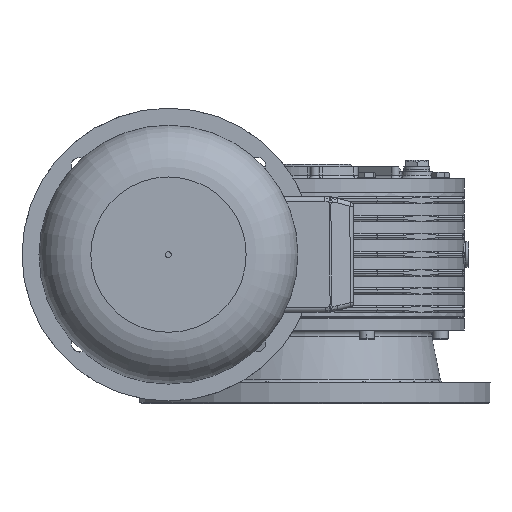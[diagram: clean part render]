
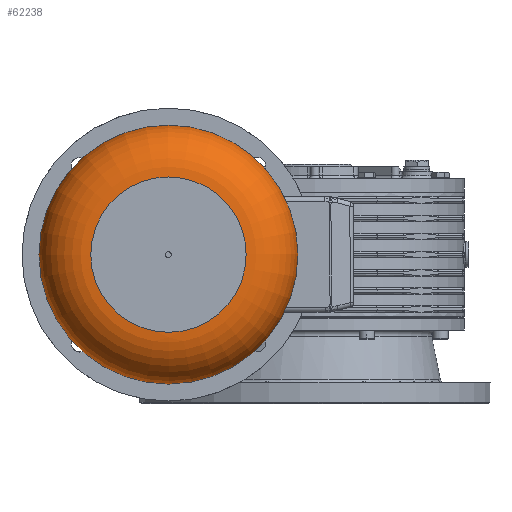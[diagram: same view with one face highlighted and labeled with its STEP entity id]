
A CAD part, left-side view. The second image highlights one B-rep face of the part: STEP entity #62238.
In plain terms, the highlighted toroidal (fillet/blend) face has major radius 66.3 mm and minor radius 44.2 mm.
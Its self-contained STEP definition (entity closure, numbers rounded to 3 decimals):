
#62211=CARTESIAN_POINT('',(458.8,0.0,0.0));
#62212=DIRECTION('',(1.0,0.0,0.0));
#62213=DIRECTION('',(0.0,0.0,-1.0));
#62214=AXIS2_PLACEMENT_3D('',#62211,#62212,#62213);
#62215=TOROIDAL_SURFACE('',#62214,66.3,44.2);
#62216=CARTESIAN_POINT('',(503.0,66.3,0.0));
#62217=VERTEX_POINT('',#62216);
#62218=CARTESIAN_POINT('',(503.0,0.0,0.0));
#62219=DIRECTION('',(1.0,0.0,0.0));
#62220=DIRECTION('',(0.0,1.0,0.0));
#62221=AXIS2_PLACEMENT_3D('',#62218,#62219,#62220);
#62222=CIRCLE('',#62221,66.3);
#62223=EDGE_CURVE('',#62217,#62217,#62222,.T.);
#62224=ORIENTED_EDGE('',*,*,#62223,.F.);
#62225=EDGE_LOOP('',(#62224));
#62226=FACE_OUTER_BOUND('',#62225,.T.);
#62227=CARTESIAN_POINT('',(458.8,110.5,0.0));
#62228=VERTEX_POINT('',#62227);
#62229=CARTESIAN_POINT('',(458.8,0.0,0.0));
#62230=DIRECTION('',(1.0,0.0,0.0));
#62231=DIRECTION('',(0.0,1.0,0.0));
#62232=AXIS2_PLACEMENT_3D('',#62229,#62230,#62231);
#62233=CIRCLE('',#62232,110.5);
#62234=EDGE_CURVE('',#62228,#62228,#62233,.T.);
#62235=ORIENTED_EDGE('',*,*,#62234,.T.);
#62236=EDGE_LOOP('',(#62235));
#62237=FACE_BOUND('',#62236,.T.);
#62238=ADVANCED_FACE('',(#62226,#62237),#62215,.T.);
